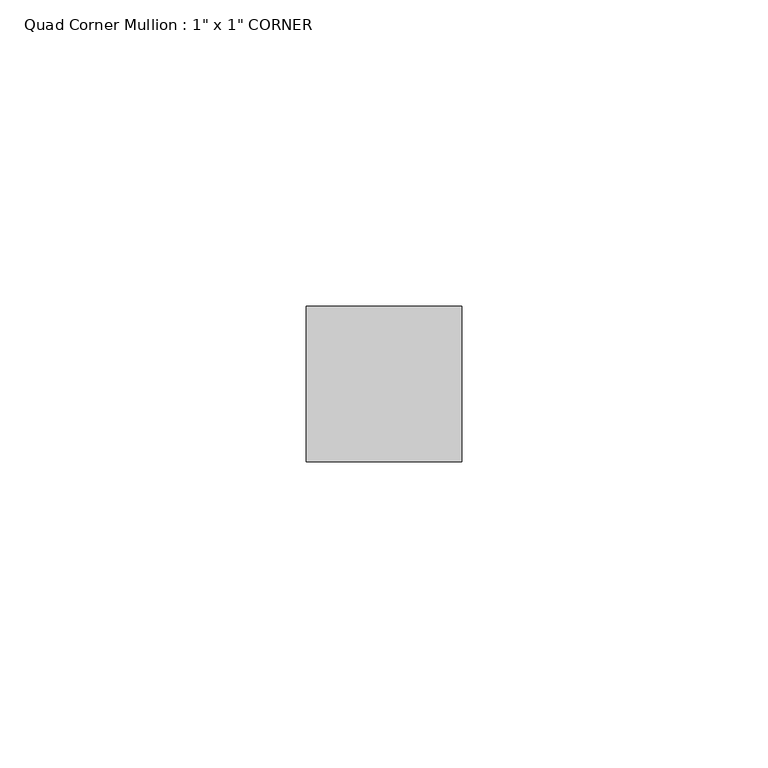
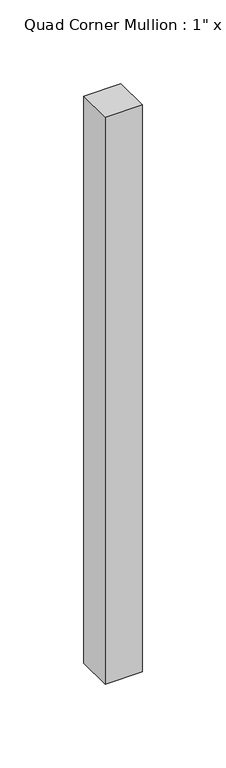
"""IFC4 building model written with IfcOpenShell, lengths in millimetres: member geometry."""

from ifc_helpers import new_model, si_unit, frame, origin, place, context, project, spatial, polyline, outline, extrude, source, transform, mapped, element, save


def member_86bebcce(model_context):
    return source(origin(), model_context, "Body", "SweptSolid", [
        extrude(outline(polyline([(0.0, 25.4), (0.0, 0.0), (-25.4, 0.0), (-25.4, 25.4), (0.0, 25.4)])), frame((0.0, 0.0, -412.7499976), z_axis=(0.0, 0.0, 1.0), x_axis=(1.0, 0.0, 0.0)), (0.0, 0.0, 1.0), 412.7499976),
    ])


if __name__ == "__main__":
    model = new_model("IFC4")
    model_context = context("Model", 3, world=origin())
    ifc_project = project(units=[si_unit("LENGTHUNIT", "METRE", prefix="MILLI")], contexts=[model_context])
    site = spatial("IfcSite", under=ifc_project)
    building = spatial("IfcBuilding", under=site)
    placement = place(None, origin())
    member_shape = member_86bebcce(model_context)
    element("IfcMember", 1, ObjectType="Quad Corner Mullion : 1\" x 1\" CORNER", at=placement, inside=building, context=model_context, shape_type="MappedRepresentation", body=[
        mapped(member_shape, transform((0.0, 0.0, 0.0), x_axis=(1.0, 0.0, 0.0), y_axis=(0.0, 1.0, 0.0), z_axis=(0.0, 0.0, 1.0))),
    ])
    save(model, "model.ifc")
